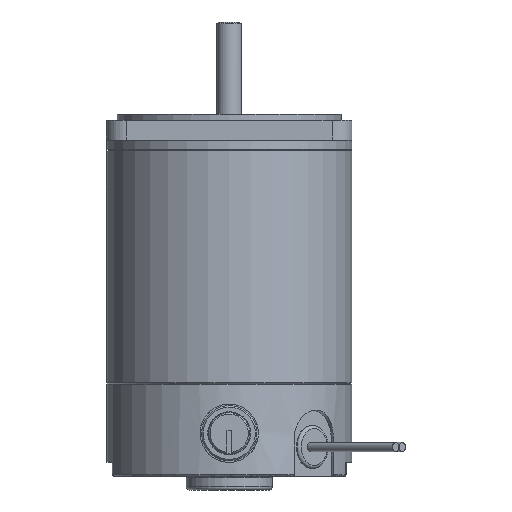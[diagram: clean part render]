
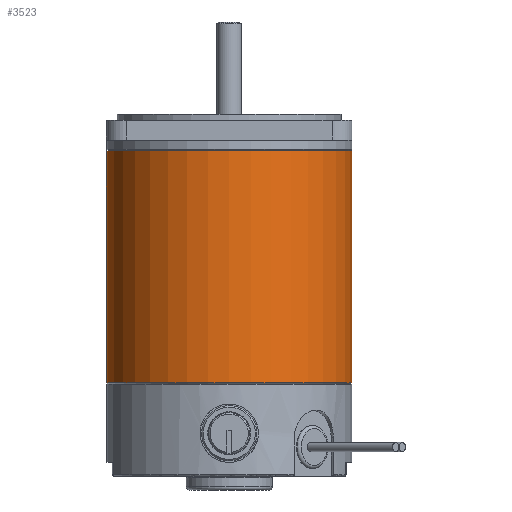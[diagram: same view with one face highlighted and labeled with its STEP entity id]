
A CAD part, front view. The second image highlights one B-rep face of the part: STEP entity #3523.
In plain terms, the highlighted cylindrical face has radius 40 mm (diameter 80 mm), a full revolution.
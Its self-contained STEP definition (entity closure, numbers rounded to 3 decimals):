
#3492=CARTESIAN_POINT('',(-40.0,0.,-79.0));
#3493=VERTEX_POINT('',#3492);
#3494=CARTESIAN_POINT('',(0.0,0.0,-79.0));
#3495=DIRECTION('',(0.0,0.0,-1.0));
#3496=DIRECTION('',(1.0,0.0,0.0));
#3497=AXIS2_PLACEMENT_3D('',#3494,#3495,#3496);
#3498=CIRCLE('',#3497,40.0);
#3499=EDGE_CURVE('',#3493,#3493,#3498,.T.);
#3504=CARTESIAN_POINT('',(0.0,0.0,-3.5));
#3505=DIRECTION('',(0.0,0.0,-1.0));
#3506=DIRECTION('',(1.0,0.0,0.0));
#3507=AXIS2_PLACEMENT_3D('',#3504,#3505,#3506);
#3508=CYLINDRICAL_SURFACE('',#3507,40.0);
#3509=CARTESIAN_POINT('',(-40.0,0.,-3.5));
#3510=VERTEX_POINT('',#3509);
#3511=CARTESIAN_POINT('',(0.0,0.0,-3.5));
#3512=DIRECTION('',(0.0,0.0,1.0));
#3513=DIRECTION('',(1.0,0.0,0.0));
#3514=AXIS2_PLACEMENT_3D('',#3511,#3512,#3513);
#3515=CIRCLE('',#3514,40.0);
#3516=EDGE_CURVE('',#3510,#3510,#3515,.T.);
#3517=ORIENTED_EDGE('',*,*,#3516,.F.);
#3518=EDGE_LOOP('',(#3517));
#3519=FACE_OUTER_BOUND('',#3518,.T.);
#3520=ORIENTED_EDGE('',*,*,#3499,.F.);
#3521=EDGE_LOOP('',(#3520));
#3522=FACE_BOUND('',#3521,.T.);
#3523=ADVANCED_FACE('',(#3519,#3522),#3508,.T.);
